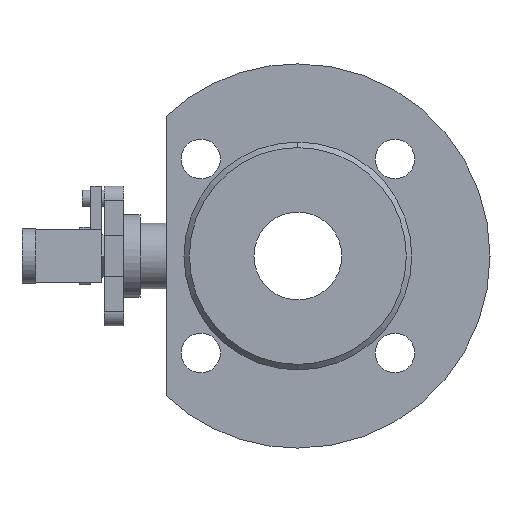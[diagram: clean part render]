
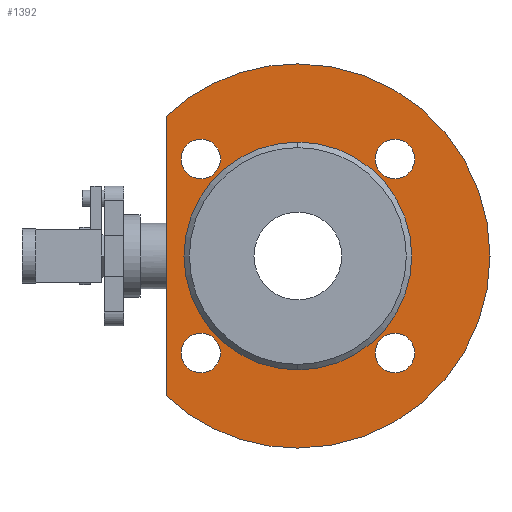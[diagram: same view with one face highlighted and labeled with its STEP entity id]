
A CAD part, left-side view. The second image highlights one B-rep face of the part: STEP entity #1392.
In plain terms, the highlighted planar face has unit normal (-1, 0, 0).
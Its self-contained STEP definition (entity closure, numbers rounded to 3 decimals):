
#12 = CARTESIAN_POINT ( 'NONE',  ( -24.5, 0., -70. ) ) ;
#100 = EDGE_CURVE ( 'NONE', #127, #579, #1385, .T. ) ;
#127 = VERTEX_POINT ( 'NONE', #2491 ) ;
#170 = EDGE_CURVE ( 'NONE', #3819, #3180, #2008, .T. ) ;
#187 = AXIS2_PLACEMENT_3D ( 'NONE', #205, #850, #3016 ) ;
#202 = CIRCLE ( 'NONE', #448, 7.2 ) ;
#205 = CARTESIAN_POINT ( 'NONE',  ( -24.5, 70., 0. ) ) ;
#317 = ORIENTED_EDGE ( 'NONE', *, *, #2348, .F. ) ;
#376 = EDGE_LOOP ( 'NONE', ( #3341, #888 ) ) ;
#401 = VERTEX_POINT ( 'NONE', #1302 ) ;
#433 = EDGE_LOOP ( 'NONE', ( #1090, #317 ) ) ;
#440 = CIRCLE ( 'NONE', #865, 7.2 ) ;
#448 = AXIS2_PLACEMENT_3D ( 'NONE', #2988, #1152, #3312 ) ;
#479 = CARTESIAN_POINT ( 'NONE',  ( -24.5, 0., 0. ) ) ;
#579 = VERTEX_POINT ( 'NONE', #2897 ) ;
#614 = EDGE_LOOP ( 'NONE', ( #1816, #3816 ) ) ;
#628 = DIRECTION ( 'NONE',  ( 0., -1., 0. ) ) ;
#631 = CARTESIAN_POINT ( 'NONE',  ( -24.5, 48., 50.951 ) ) ;
#663 = CIRCLE ( 'NONE', #2828, 7.2 ) ;
#677 = AXIS2_PLACEMENT_3D ( 'NONE', #479, #2657, #799 ) ;
#770 = ORIENTED_EDGE ( 'NONE', *, *, #100, .F. ) ;
#791 = AXIS2_PLACEMENT_3D ( 'NONE', #3067, #1220, #3376 ) ;
#799 = DIRECTION ( 'NONE',  ( 0., 0., 1. ) ) ;
#824 = FACE_OUTER_BOUND ( 'NONE', #3977, .T. ) ;
#836 = DIRECTION ( 'NONE',  ( -1., 0., 0. ) ) ;
#850 = DIRECTION ( 'NONE',  ( 1., 0., 0. ) ) ;
#865 = AXIS2_PLACEMENT_3D ( 'NONE', #3567, #1734, #3883 ) ;
#888 = ORIENTED_EDGE ( 'NONE', *, *, #170, .F. ) ;
#908 = CIRCLE ( 'NONE', #2224, 7.2 ) ;
#910 = DIRECTION ( 'NONE',  ( 0., 0., 1. ) ) ;
#920 = FACE_BOUND ( 'NONE', #433, .T. ) ;
#945 = VERTEX_POINT ( 'NONE', #3092 ) ;
#986 = ORIENTED_EDGE ( 'NONE', *, *, #3646, .T. ) ;
#991 = VERTEX_POINT ( 'NONE', #631 ) ;
#1006 = CIRCLE ( 'NONE', #1768, 70. ) ;
#1034 = CARTESIAN_POINT ( 'NONE',  ( -24.5, -35.355, 35.355 ) ) ;
#1068 = AXIS2_PLACEMENT_3D ( 'NONE', #1807, #3952, #2107 ) ;
#1090 = ORIENTED_EDGE ( 'NONE', *, *, #1830, .F. ) ;
#1124 = ORIENTED_EDGE ( 'NONE', *, *, #1985, .T. ) ;
#1152 = DIRECTION ( 'NONE',  ( -1., 0., 0. ) ) ;
#1177 = DIRECTION ( 'NONE',  ( -1., 0., 0. ) ) ;
#1220 = DIRECTION ( 'NONE',  ( -1., 0., 0. ) ) ;
#1229 = CARTESIAN_POINT ( 'NONE',  ( -24.5, 0., 70. ) ) ;
#1269 = CARTESIAN_POINT ( 'NONE',  ( -24.5, 35.355, 35.355 ) ) ;
#1302 = CARTESIAN_POINT ( 'NONE',  ( -24.5, 35.355, -28.155 ) ) ;
#1316 = VERTEX_POINT ( 'NONE', #3277 ) ;
#1354 = CARTESIAN_POINT ( 'NONE',  ( -24.5, 35.355, -35.355 ) ) ;
#1369 = DIRECTION ( 'NONE',  ( -1., 0., 0. ) ) ;
#1385 = CIRCLE ( 'NONE', #1779, 7.2 ) ;
#1392 = ADVANCED_FACE ( 'NONE', ( #2575, #2475, #920, #3388, #1658, #824 ), #2710, .F. ) ;
#1470 = CARTESIAN_POINT ( 'NONE',  ( -24.5, 0., 0. ) ) ;
#1510 = CARTESIAN_POINT ( 'NONE',  ( -24.5, 35.355, -42.555 ) ) ;
#1517 = DIRECTION ( 'NONE',  ( -1., 0., 0. ) ) ;
#1631 = DIRECTION ( 'NONE',  ( -1., 0., 0. ) ) ;
#1646 = CIRCLE ( 'NONE', #791, 41.5 ) ;
#1658 = FACE_BOUND ( 'NONE', #614, .T. ) ;
#1671 = DIRECTION ( 'NONE',  ( 0., 1., 0. ) ) ;
#1734 = DIRECTION ( 'NONE',  ( -1., 0., 0. ) ) ;
#1768 = AXIS2_PLACEMENT_3D ( 'NONE', #1470, #3614, #1782 ) ;
#1773 = CARTESIAN_POINT ( 'NONE',  ( -24.5, 48., 0. ) ) ;
#1779 = AXIS2_PLACEMENT_3D ( 'NONE', #1269, #3091, #910 ) ;
#1782 = DIRECTION ( 'NONE',  ( 0., 0., 1. ) ) ;
#1807 = CARTESIAN_POINT ( 'NONE',  ( -24.5, 0., 0. ) ) ;
#1808 = VERTEX_POINT ( 'NONE', #2569 ) ;
#1816 = ORIENTED_EDGE ( 'NONE', *, *, #2114, .F. ) ;
#1830 = EDGE_CURVE ( 'NONE', #401, #3245, #908, .T. ) ;
#1879 = VECTOR ( 'NONE', #3920, 1000. ) ;
#1946 = VERTEX_POINT ( 'NONE', #2634 ) ;
#1966 = AXIS2_PLACEMENT_3D ( 'NONE', #2691, #836, #2993 ) ;
#1985 = EDGE_CURVE ( 'NONE', #945, #2843, #2274, .T. ) ;
#2008 = CIRCLE ( 'NONE', #3213, 7.2 ) ;
#2039 = EDGE_CURVE ( 'NONE', #579, #127, #202, .T. ) ;
#2084 = ORIENTED_EDGE ( 'NONE', *, *, #3082, .F. ) ;
#2107 = DIRECTION ( 'NONE',  ( 0., 0., 1. ) ) ;
#2109 = EDGE_CURVE ( 'NONE', #1316, #3596, #2419, .T. ) ;
#2114 = EDGE_CURVE ( 'NONE', #1946, #1808, #3133, .T. ) ;
#2187 = ORIENTED_EDGE ( 'NONE', *, *, #2109, .F. ) ;
#2193 = EDGE_CURVE ( 'NONE', #3180, #3819, #663, .T. ) ;
#2224 = AXIS2_PLACEMENT_3D ( 'NONE', #1354, #3507, #1671 ) ;
#2234 = ORIENTED_EDGE ( 'NONE', *, *, #3657, .T. ) ;
#2252 = VERTEX_POINT ( 'NONE', #1229 ) ;
#2274 = CIRCLE ( 'NONE', #677, 70. ) ;
#2348 = EDGE_CURVE ( 'NONE', #3245, #401, #3080, .T. ) ;
#2354 = AXIS2_PLACEMENT_3D ( 'NONE', #3020, #1177, #3331 ) ;
#2358 = AXIS2_PLACEMENT_3D ( 'NONE', #3206, #1369, #3518 ) ;
#2419 = CIRCLE ( 'NONE', #2354, 7.2 ) ;
#2475 = FACE_BOUND ( 'NONE', #3286, .T. ) ;
#2491 = CARTESIAN_POINT ( 'NONE',  ( -24.5, 35.355, 42.555 ) ) ;
#2569 = CARTESIAN_POINT ( 'NONE',  ( -24.5, 0., 41.5 ) ) ;
#2575 = FACE_BOUND ( 'NONE', #376, .T. ) ;
#2634 = CARTESIAN_POINT ( 'NONE',  ( -24.5, 0., -41.5 ) ) ;
#2657 = DIRECTION ( 'NONE',  ( -1., 0., 0. ) ) ;
#2691 = CARTESIAN_POINT ( 'NONE',  ( -24.5, 0., 0. ) ) ;
#2699 = LINE ( 'NONE', #1773, #1879 ) ;
#2710 = PLANE ( 'NONE',  #187 ) ;
#2776 = ORIENTED_EDGE ( 'NONE', *, *, #2039, .F. ) ;
#2828 = AXIS2_PLACEMENT_3D ( 'NONE', #3358, #1517, #3663 ) ;
#2843 = VERTEX_POINT ( 'NONE', #12 ) ;
#2897 = CARTESIAN_POINT ( 'NONE',  ( -24.5, 35.355, 28.155 ) ) ;
#2988 = CARTESIAN_POINT ( 'NONE',  ( -24.5, 35.355, 35.355 ) ) ;
#2993 = DIRECTION ( 'NONE',  ( 0., 0., 1. ) ) ;
#2997 = CARTESIAN_POINT ( 'NONE',  ( -24.5, -35.355, 42.555 ) ) ;
#3016 = DIRECTION ( 'NONE',  ( 0., 0., -1. ) ) ;
#3020 = CARTESIAN_POINT ( 'NONE',  ( -24.5, -35.355, -35.355 ) ) ;
#3067 = CARTESIAN_POINT ( 'NONE',  ( -24.5, 0., 0. ) ) ;
#3080 = CIRCLE ( 'NONE', #2358, 7.2 ) ;
#3082 = EDGE_CURVE ( 'NONE', #3596, #1316, #440, .T. ) ;
#3091 = DIRECTION ( 'NONE',  ( -1., 0., 0. ) ) ;
#3092 = CARTESIAN_POINT ( 'NONE',  ( -24.5, 48., -50.951 ) ) ;
#3133 = CIRCLE ( 'NONE', #1068, 41.5 ) ;
#3144 = ORIENTED_EDGE ( 'NONE', *, *, #3856, .T. ) ;
#3180 = VERTEX_POINT ( 'NONE', #2997 ) ;
#3206 = CARTESIAN_POINT ( 'NONE',  ( -24.5, 35.355, -35.355 ) ) ;
#3213 = AXIS2_PLACEMENT_3D ( 'NONE', #1034, #1631, #628 ) ;
#3245 = VERTEX_POINT ( 'NONE', #1510 ) ;
#3277 = CARTESIAN_POINT ( 'NONE',  ( -24.5, -35.355, -28.155 ) ) ;
#3286 = EDGE_LOOP ( 'NONE', ( #2187, #2084 ) ) ;
#3294 = EDGE_CURVE ( 'NONE', #1808, #1946, #1646, .T. ) ;
#3307 = EDGE_LOOP ( 'NONE', ( #770, #2776 ) ) ;
#3312 = DIRECTION ( 'NONE',  ( 0., 0., 1. ) ) ;
#3331 = DIRECTION ( 'NONE',  ( 0., 0., -1. ) ) ;
#3341 = ORIENTED_EDGE ( 'NONE', *, *, #2193, .F. ) ;
#3358 = CARTESIAN_POINT ( 'NONE',  ( -24.5, -35.355, 35.355 ) ) ;
#3369 = CIRCLE ( 'NONE', #1966, 70. ) ;
#3376 = DIRECTION ( 'NONE',  ( 0., 0., 1. ) ) ;
#3388 = FACE_BOUND ( 'NONE', #3307, .T. ) ;
#3507 = DIRECTION ( 'NONE',  ( -1., 0., 0. ) ) ;
#3518 = DIRECTION ( 'NONE',  ( 0., 1., 0. ) ) ;
#3567 = CARTESIAN_POINT ( 'NONE',  ( -24.5, -35.355, -35.355 ) ) ;
#3582 = CARTESIAN_POINT ( 'NONE',  ( -24.5, -35.355, 28.155 ) ) ;
#3596 = VERTEX_POINT ( 'NONE', #3597 ) ;
#3597 = CARTESIAN_POINT ( 'NONE',  ( -24.5, -35.355, -42.555 ) ) ;
#3614 = DIRECTION ( 'NONE',  ( -1., 0., 0. ) ) ;
#3646 = EDGE_CURVE ( 'NONE', #2843, #2252, #3369, .T. ) ;
#3657 = EDGE_CURVE ( 'NONE', #2252, #991, #1006, .T. ) ;
#3663 = DIRECTION ( 'NONE',  ( 0., -1., 0. ) ) ;
#3816 = ORIENTED_EDGE ( 'NONE', *, *, #3294, .F. ) ;
#3819 = VERTEX_POINT ( 'NONE', #3582 ) ;
#3856 = EDGE_CURVE ( 'NONE', #991, #945, #2699, .T. ) ;
#3883 = DIRECTION ( 'NONE',  ( 0., 0., -1. ) ) ;
#3920 = DIRECTION ( 'NONE',  ( 0., 0., -1. ) ) ;
#3952 = DIRECTION ( 'NONE',  ( -1., 0., 0. ) ) ;
#3977 = EDGE_LOOP ( 'NONE', ( #1124, #986, #2234, #3144 ) ) ;
